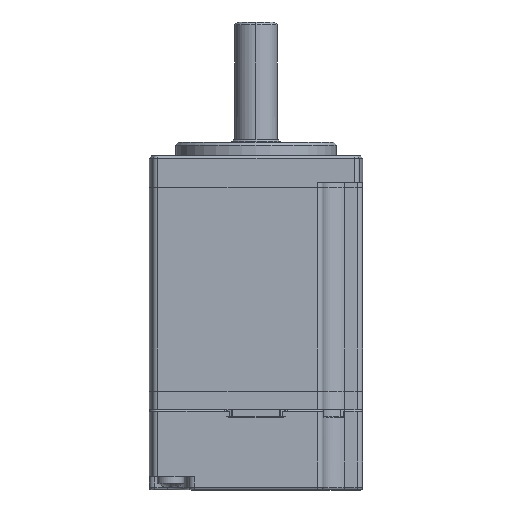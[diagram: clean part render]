
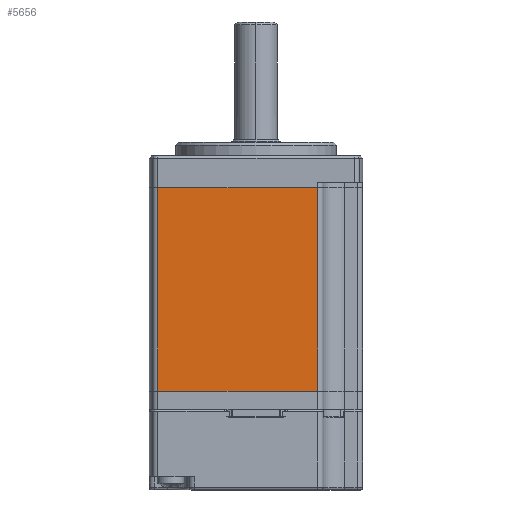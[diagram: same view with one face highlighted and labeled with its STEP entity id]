
A CAD part, front view. The second image highlights one B-rep face of the part: STEP entity #5656.
In plain terms, the highlighted planar face has unit normal (0, -1, 0).
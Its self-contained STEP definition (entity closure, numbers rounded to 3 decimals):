
#65 = VECTOR ( 'NONE', #11627, 1000. ) ;
#286 = VECTOR ( 'NONE', #1859, 1000. ) ;
#671 = EDGE_CURVE ( 'NONE', #1294, #10639, #11187, .T. ) ;
#976 = ORIENTED_EDGE ( 'NONE', *, *, #9281, .T. ) ;
#1255 = EDGE_LOOP ( 'NONE', ( #2221, #12069, #976, #13128 ) ) ;
#1294 = VERTEX_POINT ( 'NONE', #12518 ) ;
#1819 = CARTESIAN_POINT ( 'NONE',  ( 11.5, -20., 38. ) ) ;
#1859 = DIRECTION ( 'NONE',  ( 0., 0., 1. ) ) ;
#2210 = EDGE_CURVE ( 'NONE', #10639, #8978, #13726, .T. ) ;
#2221 = ORIENTED_EDGE ( 'NONE', *, *, #2210, .F. ) ;
#3517 = VECTOR ( 'NONE', #10989, 1000. ) ;
#4991 = VECTOR ( 'NONE', #14802, 1000. ) ;
#5656 = ADVANCED_FACE ( 'NONE', ( #14204 ), #10074, .F. ) ;
#8591 = EDGE_CURVE ( 'NONE', #17012, #8978, #13946, .T. ) ;
#8978 = VERTEX_POINT ( 'NONE', #10165 ) ;
#9118 = DIRECTION ( 'NONE',  ( 0., 0., -1. ) ) ;
#9181 = DIRECTION ( 'NONE',  ( 0., 1., 0. ) ) ;
#9281 = EDGE_CURVE ( 'NONE', #1294, #17012, #15810, .T. ) ;
#10074 = PLANE ( 'NONE',  #15125 ) ;
#10165 = CARTESIAN_POINT ( 'NONE',  ( 11.5, -20., 38. ) ) ;
#10535 = CARTESIAN_POINT ( 'NONE',  ( 20., -20., 38. ) ) ;
#10639 = VERTEX_POINT ( 'NONE', #17414 ) ;
#10989 = DIRECTION ( 'NONE',  ( 0., 0., 1. ) ) ;
#11187 = LINE ( 'NONE', #11319, #3517 ) ;
#11277 = CARTESIAN_POINT ( 'NONE',  ( 20., -20., 38. ) ) ;
#11319 = CARTESIAN_POINT ( 'NONE',  ( -18.397, -20., 0. ) ) ;
#11627 = DIRECTION ( 'NONE',  ( 1., 0., 0. ) ) ;
#12069 = ORIENTED_EDGE ( 'NONE', *, *, #671, .F. ) ;
#12518 = CARTESIAN_POINT ( 'NONE',  ( -18.397, -20., 0. ) ) ;
#13128 = ORIENTED_EDGE ( 'NONE', *, *, #8591, .T. ) ;
#13726 = LINE ( 'NONE', #11277, #65 ) ;
#13946 = LINE ( 'NONE', #1819, #286 ) ;
#14204 = FACE_OUTER_BOUND ( 'NONE', #1255, .T. ) ;
#14802 = DIRECTION ( 'NONE',  ( 1., 0., 0. ) ) ;
#14859 = CARTESIAN_POINT ( 'NONE',  ( 20., -20., 0. ) ) ;
#15125 = AXIS2_PLACEMENT_3D ( 'NONE', #10535, #9181, #9118 ) ;
#15810 = LINE ( 'NONE', #14859, #4991 ) ;
#16782 = CARTESIAN_POINT ( 'NONE',  ( 11.5, -20., 0. ) ) ;
#17012 = VERTEX_POINT ( 'NONE', #16782 ) ;
#17414 = CARTESIAN_POINT ( 'NONE',  ( -18.397, -20., 38. ) ) ;
